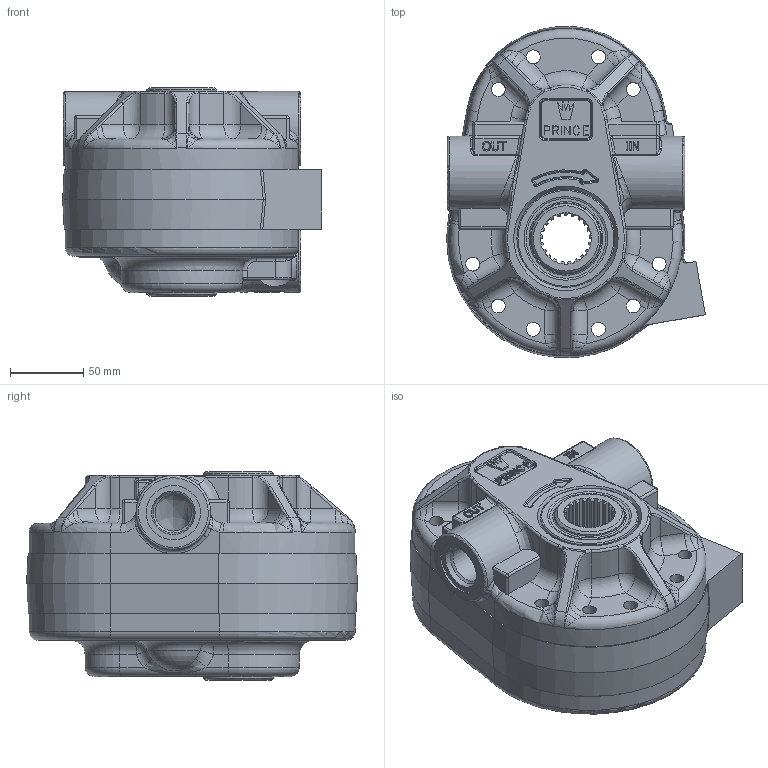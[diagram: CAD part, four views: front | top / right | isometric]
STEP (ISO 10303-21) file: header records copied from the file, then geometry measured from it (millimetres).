
FILE_DESCRIPTION((''),'2;1');
FILE_NAME('C:\Vault\Workspace\AssembliesPumps\HC-PTO_\HC-PTO-3Amodel.stp','2013-06-05T09:03:09',('otterbyj'),(''),'Autodesk Inventor 2012','Autodesk Inventor 2012','');
FILE_SCHEMA(('AUTOMOTIVE_DESIGN { 1 0 10303 214 1 1 1 1 }'));
Length unit declared in the file: inch
Products named in the file (6): HC-PTO-3Amodel; 500101004; 500101014; 500103021; 500104019model; 240016026
Assembly tree (6 placements, depth 2):
  HC-PTO-3Amodel
    500101004
    500101014
    500103021
    500104019model
    240016026  x2
Bounding box: 176.37 x 225.58 x 142.24 mm (x, y, z)
Volume: 2136908.2 mm3; surface area: 376291.1 mm2
Topology: 6 solids, 8 shells, 1229 faces, 3171 edges, 1966 vertices
Faces by surface type: plane 367, cylinder 319, bspline 299, cone 117, torus 102, sphere 25
Full cylindrical faces by diameter (mm): 7.798 x2, 8.731 x2, 9.525 x14, 9.545 x6, 10.319 x28, 16.256 x1, 19.05 x2, 23.8 x1, 24.994 x1, 28.702 x1, 30.937 x1, 31.75 x1, 37.033 x2, 38.1 x1, 41.255 x2, 42.926 x1, 44.348 x1, 47.582 x1, 53.184 x2, 61.04 x2, 61.89 x1, 61.915 x1, 64.77 x2, 66.599 x2, 66.802 x2
Entity records: 45232 total; most frequent: CARTESIAN_POINT 17009, ORIENTED_EDGE 5796, DIRECTION 5136, EDGE_CURVE 2898, AXIS2_PLACEMENT_3D 1991, VERTEX_POINT 1874, EDGE_LOOP 1470, FACE_OUTER_BOUND 1204
